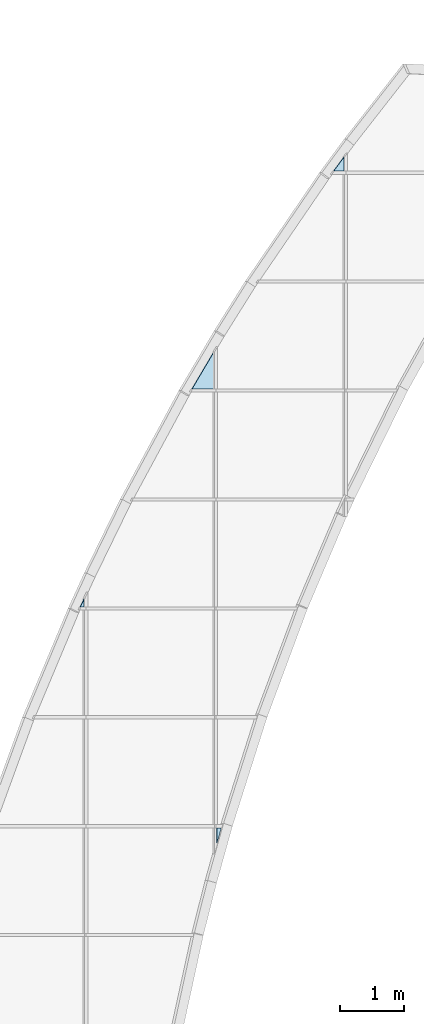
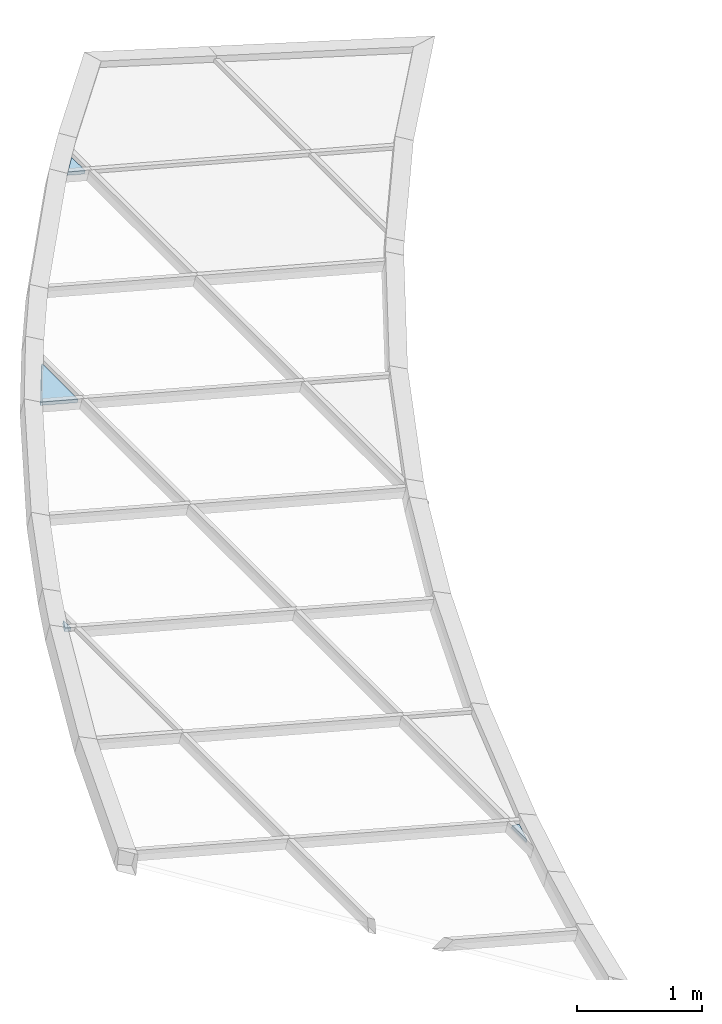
# One storey, part 17 of 33: 4 plates, 1 element without a shape of its own.
"""IFC2X3 building model written with IfcOpenShell, lengths in millimetres."""

import ifcopenshell
import ifcopenshell.guid

model = None  # the IFC model being written
_history = None  # IfcOwnerHistory: only IFC2X3 demands one
_inside = {}  # id of a spatial element -> (the spatial element, [elements in it])
_under = {}  # id of a project, library or spatial element -> (it, [spatial elements below it])
_declared = {}  # id of a project -> (the project, [libraries it declares])
_typed = {}  # id of a type object -> (the type object, [elements of that type])
_made_of = {}  # id of a material, layer set ... -> (it, [elements and type objects made of it])


def new_model(schema):
    """Start an empty IFC model of exactly this schema.

    Asked for "IFC4X3", IfcOpenShell would pick the latest addendum, in which some entities
    have other attributes; the version numbers below select the first issue.
    IFC2X3 requires an IfcOwnerHistory on every rooted entity: one is made here for all.
    """
    global model, _history
    if schema == "IFC4X3":
        model = ifcopenshell.file(schema_version=(4, 3, 0, 0))
    else:
        model = ifcopenshell.file(schema=schema)
    _inside.clear()
    _under.clear()
    _declared.clear()
    _typed.clear()
    _made_of.clear()
    _history = None
    if model.schema == "IFC2X3":
        org = make("IfcOrganization", Name="unknown")
        user = make(
            "IfcPersonAndOrganization",
            ThePerson=make("IfcPerson", FamilyName="unknown"),
            TheOrganization=org,
        )
        app = make(
            "IfcApplication",
            ApplicationDeveloper=org,
            Version="unknown",
            ApplicationFullName="unknown",
            ApplicationIdentifier="unknown",
        )
        _history = make(
            "IfcOwnerHistory",
            OwningUser=user,
            OwningApplication=app,
            ChangeAction="ADDED",
            CreationDate=0,
        )
    return model


def make(cls, **values):
    """One entity of the class cls with the attributes given. An attribute that is None is left unset."""
    return model.create_entity(
        cls, **{name: value for name, value in values.items() if value is not None}
    )


def entity(cls, *values):
    """Any entity or typed value of the class cls, its attributes in the order of the schema. None: left unset."""
    e = model.create_entity(cls)
    for i, value in enumerate(values):
        if value is not None:
            e[i] = value
    return e


def rooted(cls, **values):
    """An entity with a GlobalId (a new one), such as an element, a storey or a relation."""
    return make(cls, GlobalId=ifcopenshell.guid.new(), OwnerHistory=_history, **values)


def si_unit(unit_type, name, prefix=None):
    """IfcSIUnit, for example si_unit("LENGTHUNIT", "METRE", prefix="MILLI")."""
    return make("IfcSIUnit", UnitType=unit_type, Prefix=prefix, Name=name)


def converted_unit(unit_type, name, factor, base, dimensions=None, offset=None):
    """IfcConversionBasedUnit, such as the inch: factor (a typed value) times the base unit."""
    return make(
        "IfcConversionBasedUnit"
        if offset is None
        else "IfcConversionBasedUnitWithOffset",
        ConversionOffset=offset,
        Dimensions=None
        if dimensions is None
        else entity("IfcDimensionalExponents", *dimensions),
        UnitType=unit_type,
        Name=name,
        ConversionFactor=make(
            "IfcMeasureWithUnit", ValueComponent=factor, UnitComponent=base
        ),
    )


def derived_unit(unit_type, elements):
    """IfcDerivedUnit: a product of units, each with its exponent."""
    return make(
        "IfcDerivedUnit",
        Elements=[
            make("IfcDerivedUnitElement", Unit=unit, Exponent=power)
            for unit, power in elements
        ],
        UnitType=unit_type,
    )


def assignment(units):
    """IfcUnitAssignment: the units of a project."""
    return None if units is None else make("IfcUnitAssignment", Units=units)


def point(xyz):
    """IfcCartesianPoint."""
    return None if xyz is None else make("IfcCartesianPoint", Coordinates=xyz)


def direction(xyz):
    """IfcDirection."""
    return None if xyz is None else make("IfcDirection", DirectionRatios=xyz)


def frame(location, z_axis=None, x_axis=None):
    """IfcAxis2Placement3D, a coordinate frame: its origin and axes. An axis left out is left unset."""
    return make(
        "IfcAxis2Placement3D",
        Location=point(location),
        Axis=direction(z_axis),
        RefDirection=direction(x_axis),
    )


def origin():
    """The frame at (0, 0, 0) with its axes left unset."""
    return frame((0.0, 0.0, 0.0))


def place(relative_to, where):
    """IfcLocalPlacement: puts the frame where relative to a parent placement (None: the world)."""
    return make(
        "IfcLocalPlacement", PlacementRelTo=relative_to, RelativePlacement=where
    )


def context(
    kind, dimensions, precision=None, world=None, true_north=None, identifier=None
):
    """IfcGeometricRepresentationContext, for example the 3D "Model" context."""
    return make(
        "IfcGeometricRepresentationContext",
        ContextIdentifier=identifier,
        ContextType=kind,
        CoordinateSpaceDimension=dimensions,
        Precision=precision,
        WorldCoordinateSystem=world,
        TrueNorth=true_north,
    )


def subcontext(parent, identifier, kind, view, scale=None):
    """IfcGeometricRepresentationSubContext, for example "Body" below "Model"."""
    return make(
        "IfcGeometricRepresentationSubContext",
        ContextIdentifier=identifier,
        ContextType=kind,
        ParentContext=parent,
        TargetScale=scale,
        TargetView=view,
    )


def project(units=None, contexts=None):
    """IfcProject with its units and contexts."""
    return rooted(
        "IfcProject",
        Name="project",
        RepresentationContexts=contexts,
        UnitsInContext=assignment(units),
    )


def spatial(cls, under=None, at=None, **own):
    """A site, building, storey or space (cls), placed at a placement, below another one or the project."""
    s = rooted(cls, ObjectPlacement=at, **own)
    if under is not None:
        _under.setdefault(under.id(), (under, []))[1].append(s)
    return s


def polyline(points):
    """IfcPolyline through the points."""
    return make("IfcPolyline", Points=[point(p) for p in points])


def outline(outer, holes=None, kind="AREA"):
    """IfcArbitraryClosedProfileDef: a profile drawn as a closed curve; with holes, ...WithVoids."""
    if holes is None:
        return make("IfcArbitraryClosedProfileDef", ProfileType=kind, OuterCurve=outer)
    return make(
        "IfcArbitraryProfileDefWithVoids",
        ProfileType=kind,
        OuterCurve=outer,
        InnerCurves=holes,
    )


def extrude(swept, where, along, depth):
    """IfcExtrudedAreaSolid: the profile swept, set in the frame where, extruded along a direction by depth."""
    return make(
        "IfcExtrudedAreaSolid",
        SweptArea=swept,
        Position=where,
        ExtrudedDirection=direction(along),
        Depth=depth,
    )


def shape(context_of_items, identifier, shape_type, items):
    """IfcShapeRepresentation: the items that make up one representation, for example the "Body"."""
    return make(
        "IfcShapeRepresentation",
        ContextOfItems=context_of_items,
        RepresentationIdentifier=identifier,
        RepresentationType=shape_type,
        Items=items,
    )


def source(mapping_origin, context_of_items, identifier, shape_type, items):
    """IfcRepresentationMap: a shape defined once, which mapped items show again and again."""
    return make(
        "IfcRepresentationMap",
        MappingOrigin=mapping_origin,
        MappedRepresentation=shape(context_of_items, identifier, shape_type, items),
    )


def transform(
    local_origin,
    x_axis=None,
    y_axis=None,
    z_axis=None,
    scale=None,
    scale2=None,
    scale3=None,
    uniform=True,
):
    """IfcCartesianTransformationOperator3D, or its non-uniform kind. x_axis, y_axis, z_axis: its Axis1, 2, 3."""
    if uniform:
        return make(
            "IfcCartesianTransformationOperator3D",
            Axis1=direction(x_axis),
            Axis2=direction(y_axis),
            LocalOrigin=point(local_origin),
            Scale=scale,
            Axis3=direction(z_axis),
        )
    return make(
        "IfcCartesianTransformationOperator3DnonUniform",
        Axis1=direction(x_axis),
        Axis2=direction(y_axis),
        LocalOrigin=point(local_origin),
        Scale=scale,
        Axis3=direction(z_axis),
        Scale2=scale2,
        Scale3=scale3,
    )


def mapped(mapping_source, mapping_target):
    """IfcMappedItem: shows the shape of a source again, moved by a transform."""
    return make(
        "IfcMappedItem", MappingSource=mapping_source, MappingTarget=mapping_target
    )


def material(Name=None, Category=None):
    """IfcMaterial."""
    return make("IfcMaterial", Name=Name, Category=Category)


def layer(
    of_material, thickness, ventilated=None, Name=None, Category=None, Priority=None
):
    """IfcMaterialLayer: one layer of a wall or slab, of a material (None: an air gap)."""
    return make(
        "IfcMaterialLayer",
        Material=of_material,
        LayerThickness=thickness,
        IsVentilated=ventilated,
        Name=Name,
        Category=Category,
        Priority=Priority,
    )


def layer_set(layers, Name=None):
    """IfcMaterialLayerSet."""
    return make("IfcMaterialLayerSet", MaterialLayers=layers, LayerSetName=Name)


def layer_usage(for_layer_set, set_direction, sense, offset, extent=None):
    """IfcMaterialLayerSetUsage: how a layer set lies in its element."""
    return make(
        "IfcMaterialLayerSetUsage",
        ForLayerSet=for_layer_set,
        LayerSetDirection=set_direction,
        DirectionSense=sense,
        OffsetFromReferenceLine=offset,
        ReferenceExtent=extent,
    )


def made_of(thing, what):
    """Note that an element or type object is made of a material, layer set ...; save() writes the relation."""
    if what is not None:
        _made_of.setdefault(what.id(), (what, []))[1].append(thing)
    return thing


def type_object(cls, material=None, **own):
    """A type object (cls), such as IfcWallType, which elements share."""
    return made_of(rooted(cls, **own), material)


def type_shapes(of_type, sources):
    """Give a type object the sources (RepresentationMaps) that its elements show as mapped items."""
    of_type.RepresentationMaps = sources


def element(
    cls,
    number,
    at=None,
    inside=None,
    cuts=None,
    type_object=None,
    material=None,
    context=None,
    identifier="Body",
    shape_type=None,
    held_by="IfcProductDefinitionShape",
    body=None,
    shapes=None,
    **own,
):
    """One element of the class cls, such as IfcWall. Its Tag is "e" and its number.

    at: its placement. inside: the storey or other place that contains it. cuts: it is an
    opening in that element (IfcRelVoidsElement). A single representation is given by context,
    identifier, shape_type and body (its items); several are given by shapes. held_by: the class
    of the entity that holds the representations. save() writes the other relations.
    """
    e = rooted(cls, Tag="e%d" % number, ObjectPlacement=at, **own)
    if body is not None:
        shapes = [shape(context, identifier, shape_type, body)]
    if shapes is not None:
        e.Representation = make(held_by, Representations=shapes)
    if inside is not None:
        _inside.setdefault(inside.id(), (inside, []))[1].append(e)
    if cuts is not None:
        rooted(
            "IfcRelVoidsElement", RelatingBuildingElement=cuts, RelatedOpeningElement=e
        )
    if type_object is not None:
        _typed.setdefault(type_object.id(), (type_object, []))[1].append(e)
    return made_of(e, material)


def aggregate(whole, parts):
    """IfcRelAggregates: a whole, such as a stair, and the parts it consists of."""
    return rooted("IfcRelAggregates", RelatingObject=whole, RelatedObjects=parts)


def save(model, path):
    """Write the relations noted so far, then the file.

    IfcRelAggregates (storeys below a building ...), IfcRelContainedInSpatialStructure (elements
    in a storey), IfcRelDefinesByType, IfcRelAssociatesMaterial and IfcRelDeclares: one each for
    every whole, place, type object, material and project.
    """
    for whole, parts in _under.values():
        aggregate(whole, parts)
    for where, things in _inside.values():
        rooted(
            "IfcRelContainedInSpatialStructure",
            RelatedElements=things,
            RelatingStructure=where,
        )
    for kind, things in _typed.values():
        rooted("IfcRelDefinesByType", RelatedObjects=things, RelatingType=kind)
    for what, things in _made_of.values():
        rooted("IfcRelAssociatesMaterial", RelatedObjects=things, RelatingMaterial=what)
    for by, libraries in _declared.values():
        rooted("IfcRelDeclares", RelatingContext=by, RelatedDefinitions=libraries)
    model.write(path)


model = new_model("IFC2X3")

# Units and contexts
model_context = context("Model", 3, precision=0.01, world=origin(), true_north=direction((6.12303176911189e-17, 1.0)))
body_context = subcontext(model_context, "Body", "Model", "MODEL_VIEW")
ifc_project = project(units=[si_unit("LENGTHUNIT", "METRE", prefix="MILLI"), si_unit("AREAUNIT", "SQUARE_METRE"), si_unit("VOLUMEUNIT", "CUBIC_METRE"), converted_unit("PLANEANGLEUNIT", "DEGREE", entity("IfcRatioMeasure", 0.0174532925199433), si_unit("PLANEANGLEUNIT", "RADIAN"), dimensions=[0, 0, 0, 0, 0, 0, 0]), si_unit("MASSUNIT", "GRAM", prefix="KILO"), derived_unit("MASSDENSITYUNIT", [(si_unit("MASSUNIT", "GRAM", prefix="KILO"), 1), (si_unit("LENGTHUNIT", "METRE"), -3)]), si_unit("TIMEUNIT", "SECOND"), si_unit("FREQUENCYUNIT", "HERTZ"), si_unit("THERMODYNAMICTEMPERATUREUNIT", "DEGREE_CELSIUS"), derived_unit("THERMALTRANSMITTANCEUNIT", [(si_unit("MASSUNIT", "GRAM", prefix="KILO"), 1), (si_unit("THERMODYNAMICTEMPERATUREUNIT", "KELVIN"), -1), (si_unit("TIMEUNIT", "SECOND"), -3)]), derived_unit("VOLUMETRICFLOWRATEUNIT", [(si_unit("LENGTHUNIT", "METRE"), 3), (si_unit("TIMEUNIT", "SECOND"), -1)]), si_unit("ELECTRICCURRENTUNIT", "AMPERE"), si_unit("ELECTRICVOLTAGEUNIT", "VOLT"), si_unit("POWERUNIT", "WATT"), si_unit("FORCEUNIT", "NEWTON", prefix="KILO"), si_unit("ILLUMINANCEUNIT", "LUX"), si_unit("LUMINOUSFLUXUNIT", "LUMEN"), si_unit("LUMINOUSINTENSITYUNIT", "CANDELA"), derived_unit("USERDEFINED", [(si_unit("MASSUNIT", "GRAM", prefix="KILO"), -1), (si_unit("LENGTHUNIT", "METRE"), -2), (si_unit("TIMEUNIT", "SECOND"), 3), (si_unit("LUMINOUSFLUXUNIT", "LUMEN"), 1)]), derived_unit("LINEARVELOCITYUNIT", [(si_unit("LENGTHUNIT", "METRE"), 1), (si_unit("TIMEUNIT", "SECOND"), -1)]), si_unit("PRESSUREUNIT", "PASCAL"), derived_unit("USERDEFINED", [(si_unit("LENGTHUNIT", "METRE"), -2), (si_unit("MASSUNIT", "GRAM", prefix="KILO"), 1), (si_unit("TIMEUNIT", "SECOND"), -2)])], contexts=[model_context])

# Site, building, storey
site_placement = place(None, origin())
site = spatial("IfcSite", under=ifc_project, at=site_placement, Name="表面", CompositionType="ELEMENT")
building_placement = place(site_placement, origin())
building = spatial("IfcBuilding", under=site, at=building_placement, CompositionType="ELEMENT")
storey_placement = place(building_placement, frame((0.0, 0.0, 6000.0)))
storey = spatial("IfcBuildingStorey", under=building, at=storey_placement, Name="3F", CompositionType="ELEMENT", Elevation=6000.00000000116)

# Curtain wall, plates
curtain_wall_type = type_object("IfcCurtainWallType", Name="幕墙系统:1700 x 2100mm", PredefinedType="NOTDEFINED")
curtain_wall_placement = place(storey_placement, frame((0.0, 0.0, -6000.0)))
curtain_wall = element("IfcCurtainWall", 1, at=curtain_wall_placement, inside=storey, type_object=curtain_wall_type, Name="幕墙系统:1700 x 2100mm", ObjectType="幕墙系统:1700 x 2100mm")
ifc_material = material(Name="<Unnamed>")
ifc_layer = layer(ifc_material, 30.0)
ifc_layer_set = layer_set([ifc_layer], Name="幕墙系统:1450 x 2100mm")
ifc_layer_usage_1 = layer_usage(ifc_layer_set, "AXIS3", "POSITIVE", 0.0)
plate_type_1 = type_object("IfcPlateType", Name="玻璃", PredefinedType="CURTAIN_PANEL", material=ifc_layer_set)
shared_shape_1 = source(origin(), body_context, "Body", "SweptSolid", [
    extrude(outline(polyline([(-149.365009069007, -44.1285726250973), (125.173075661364, -44.1285726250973), (24.1919334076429, 88.2571452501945), (-149.365009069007, -44.1285726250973)])), frame((36.3806994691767, -15.0, 55.5009203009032), z_axis=(0.0, 1.0, 0.0), x_axis=(0.795096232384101, 0.0, 0.606483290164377)), (0.0, 0.0, 1.0), 30.0),
])
type_shapes(plate_type_1, [shared_shape_1])
plate_1_placement = place(curtain_wall_placement, frame((-36934.7072469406, 1539.76941147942, 7732.45175660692), z_axis=(-0.965925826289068, 0.0, 0.258819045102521), x_axis=(0.0, -1.0, 0.0)))
plate_1 = element("IfcPlate", 2, at=plate_1_placement, type_object=plate_type_1, material=ifc_layer_usage_1, Name="系统嵌板:玻璃", ObjectType="玻璃", context=body_context, shape_type="MappedRepresentation", body=[
    mapped(shared_shape_1, transform((0.0, 0.0, 0.0), scale=1.0)),
])
ifc_layer_usage_2 = layer_usage(ifc_layer_set, "AXIS3", "POSITIVE", 0.0)
plate_type_2 = type_object("IfcPlateType", Name="玻璃", PredefinedType="CURTAIN_PANEL", material=ifc_layer_set)
shared_shape_2 = source(origin(), body_context, "Body", "SweptSolid", [
    extrude(outline(polyline([(-78.3225668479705, -22.6101620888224), (156.645133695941, -22.6101620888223), (-78.3225668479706, 45.2203241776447), (-78.3225668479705, -22.6101620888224)])), frame((-39.1612834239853, -15.0, 45.2203241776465), z_axis=(0.0, 1.0, 0.0), x_axis=(1.0, 0.0, 0.0)), (0.0, 0.0, 1.0), 30.0),
])
type_shapes(plate_type_2, [shared_shape_2])
plate_2_placement = place(curtain_wall_placement, frame((-38849.3359723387, -8936.85653720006, 8245.47497738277), z_axis=(-0.965925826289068, 0.0, 0.258819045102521), x_axis=(0.0, -1.0, 0.0)))
plate_2 = element("IfcPlate", 3, at=plate_2_placement, type_object=plate_type_2, material=ifc_layer_usage_2, Name="系统嵌板:玻璃", ObjectType="玻璃", context=body_context, shape_type="MappedRepresentation", body=[
    mapped(shared_shape_2, transform((0.0, 0.0, 0.0), scale=1.0)),
])
ifc_layer_usage_3 = layer_usage(ifc_layer_set, "AXIS3", "POSITIVE", 0.0)
plate_type_3 = type_object("IfcPlateType", Name="玻璃", PredefinedType="CURTAIN_PANEL", material=ifc_layer_set)
shared_shape_3 = source(origin(), body_context, "Body", "SweptSolid", [
    extrude(outline(polyline([(-391.148597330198, -100.86839942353), (288.246967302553, -100.86839942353), (102.901630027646, 201.73679884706), (-391.148597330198, -100.86839942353)])), frame((96.559643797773, -15.0, 118.285342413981), z_axis=(0.0, 1.0, 0.0), x_axis=(0.852754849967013, 0.0, 0.522311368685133)), (0.0, 0.0, 1.0), 30.0),
])
type_shapes(plate_type_3, [shared_shape_3])
plate_3_placement = place(curtain_wall_placement, frame((-38963.1514821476, -1679.69375553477, 8275.97175132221), z_axis=(-0.965925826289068, 0.0, 0.258819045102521), x_axis=(0.0, -1.0, 0.0)))
plate_3 = element("IfcPlate", 4, at=plate_3_placement, type_object=plate_type_3, material=ifc_layer_usage_3, Name="系统嵌板:玻璃", ObjectType="玻璃", context=body_context, shape_type="MappedRepresentation", body=[
    mapped(shared_shape_3, transform((0.0, 0.0, 0.0), scale=1.0)),
])
ifc_layer_usage_4 = layer_usage(ifc_layer_set, "AXIS3", "POSITIVE", 0.0)
plate_type_4 = type_object("IfcPlateType", Name="玻璃", PredefinedType="CURTAIN_PANEL", material=ifc_layer_set)
shared_shape_4 = source(origin(), body_context, "Body", "SweptSolid", [
    extrude(outline(polyline([(-82.0244535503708, -17.4500205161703), (53.3956332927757, -17.4500205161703), (28.6288202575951, 34.9000410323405), (-82.0244535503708, -17.4500205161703)])), frame((20.4019851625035, -15.0, 19.3043575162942), z_axis=(0.0, 1.0, 0.0), x_axis=(0.903942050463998, 0.0, 0.427654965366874)), (0.0, 0.0, 1.0), 30.0),
])
type_shapes(plate_type_4, [shared_shape_4])
plate_4_placement = place(curtain_wall_placement, frame((-40991.5957173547, -5308.1667314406, 8819.49174603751), z_axis=(-0.965925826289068, 0.0, 0.258819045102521), x_axis=(0.0, -1.0, 0.0)))
plate_4 = element("IfcPlate", 5, at=plate_4_placement, type_object=plate_type_4, material=ifc_layer_usage_4, Name="系统嵌板:玻璃", ObjectType="玻璃", context=body_context, shape_type="MappedRepresentation", body=[
    mapped(shared_shape_4, transform((0.0, 0.0, 0.0), scale=1.0)),
])
aggregate(curtain_wall, [plate_1, plate_2, plate_3, plate_4])

save(model, "model.ifc")
